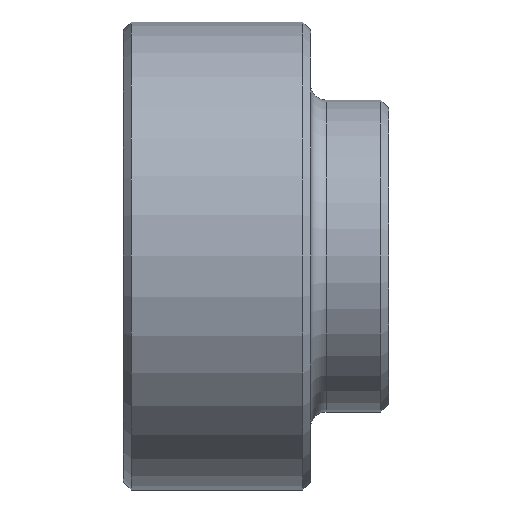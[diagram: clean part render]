
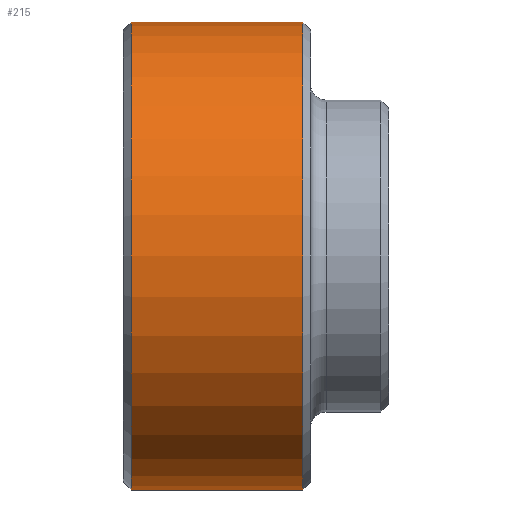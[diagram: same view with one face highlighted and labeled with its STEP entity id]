
A CAD part, front view. The second image highlights one B-rep face of the part: STEP entity #215.
In plain terms, the highlighted cylindrical face has radius 15 mm (diameter 30 mm), a full revolution.
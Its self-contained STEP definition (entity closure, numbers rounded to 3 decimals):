
#215=ADVANCED_FACE('',(#4688,#4690),#4692,.T.);
#4688=FACE_OUTER_BOUND('',#4689,.T.);
#4689=EDGE_LOOP('',(#5354));
#4690=FACE_OUTER_BOUND('',#4691,.T.);
#4691=EDGE_LOOP('',(#5355));
#4692=CYLINDRICAL_SURFACE('',#4693,15.);
#4693=AXIS2_PLACEMENT_3D('',#4694,#4695,#4696);
#4694=CARTESIAN_POINT('',(12.,0.,0.));
#4695=DIRECTION('',(-1.,0.,0.));
#4696=DIRECTION('',(0.,0.,-1.));
#5354=ORIENTED_EDGE('',*,*,#5435,.T.);
#5355=ORIENTED_EDGE('',*,*,#5437,.F.);
#5435=EDGE_CURVE('',#5532,#5532,#5533,.T.);
#5437=EDGE_CURVE('',#5536,#5536,#5537,.T.);
#5532=VERTEX_POINT('',#7737);
#5533=CIRCLE('',#7738,15.);
#5536=VERTEX_POINT('',#7747);
#5537=CIRCLE('',#7748,15.);
#7737=CARTESIAN_POINT('',(11.5,0.,-15.));
#7738=AXIS2_PLACEMENT_3D('',#7739,#7740,#7741);
#7739=CARTESIAN_POINT('',(11.5,0.,0.));
#7740=DIRECTION('',(-1.,0.,0.));
#7741=DIRECTION('',(0.,0.,-1.));
#7747=CARTESIAN_POINT('',(0.5,0.,-15.));
#7748=AXIS2_PLACEMENT_3D('',#7749,#7750,#7751);
#7749=CARTESIAN_POINT('',(0.5,0.,0.));
#7750=DIRECTION('',(-1.,0.,0.));
#7751=DIRECTION('',(0.,0.,-1.));
